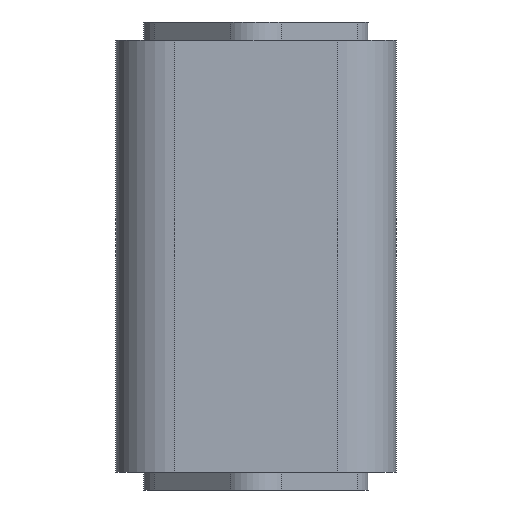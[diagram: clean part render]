
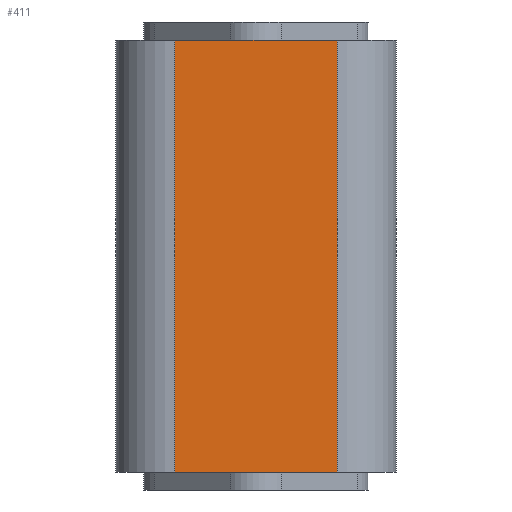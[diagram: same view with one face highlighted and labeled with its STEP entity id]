
A CAD part, front view. The second image highlights one B-rep face of the part: STEP entity #411.
In plain terms, the highlighted planar face has unit normal (0, -1, 0).
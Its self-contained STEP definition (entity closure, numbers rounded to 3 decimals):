
#346=CARTESIAN_POINT('',(22.5,-39.,120.0));
#347=VERTEX_POINT('',#346);
#355=CARTESIAN_POINT('',(22.5,-39.,0.0));
#356=VERTEX_POINT('',#355);
#357=CARTESIAN_POINT('',(22.5,-39.,0.0));
#358=DIRECTION('',(0.0,0.0,1.0));
#359=VECTOR('',#358,120.0);
#360=LINE('',#357,#359);
#361=EDGE_CURVE('',#356,#347,#360,.T.);
#381=CARTESIAN_POINT('',(22.5,-39.,0.0));
#382=DIRECTION('',(0.0,-1.0,0.0));
#383=DIRECTION('',(0.0,0.0,-1.0));
#384=AXIS2_PLACEMENT_3D('',#381,#382,#383);
#385=PLANE('',#384);
#386=CARTESIAN_POINT('',(-22.5,-39.,120.0));
#387=VERTEX_POINT('',#386);
#388=CARTESIAN_POINT('',(22.5,-39.,120.0));
#389=DIRECTION('',(-1.0,0.0,0.0));
#390=VECTOR('',#389,45.);
#391=LINE('',#388,#390);
#392=EDGE_CURVE('',#347,#387,#391,.T.);
#393=ORIENTED_EDGE('',*,*,#392,.T.);
#394=CARTESIAN_POINT('',(-22.5,-39.,0.0));
#395=VERTEX_POINT('',#394);
#396=CARTESIAN_POINT('',(-22.5,-39.,0.0));
#397=DIRECTION('',(0.0,0.0,1.0));
#398=VECTOR('',#397,120.0);
#399=LINE('',#396,#398);
#400=EDGE_CURVE('',#395,#387,#399,.T.);
#401=ORIENTED_EDGE('',*,*,#400,.F.);
#402=CARTESIAN_POINT('',(-22.5,-39.,0.0));
#403=DIRECTION('',(1.0,0.0,0.0));
#404=VECTOR('',#403,45.);
#405=LINE('',#402,#404);
#406=EDGE_CURVE('',#395,#356,#405,.T.);
#407=ORIENTED_EDGE('',*,*,#406,.T.);
#408=ORIENTED_EDGE('',*,*,#361,.T.);
#409=EDGE_LOOP('',(#393,#401,#407,#408));
#410=FACE_OUTER_BOUND('',#409,.T.);
#411=ADVANCED_FACE('',(#410),#385,.T.);
